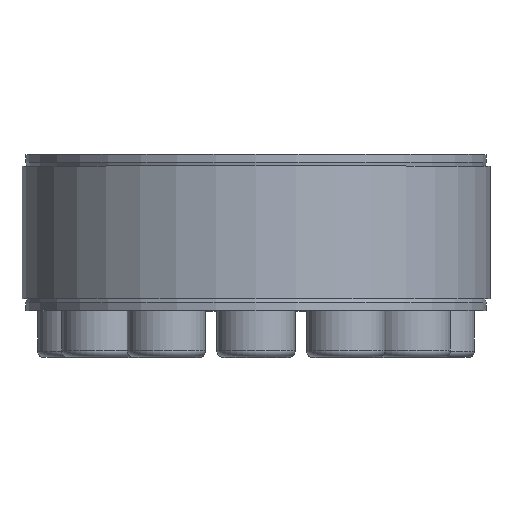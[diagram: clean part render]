
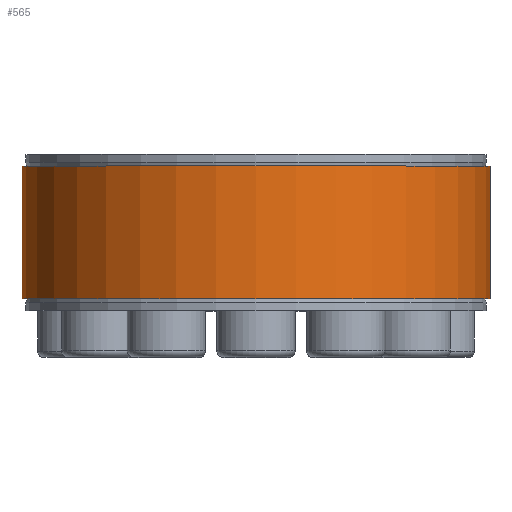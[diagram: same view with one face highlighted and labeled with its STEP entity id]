
A CAD part, top view. The second image highlights one B-rep face of the part: STEP entity #565.
In plain terms, the highlighted cylindrical face has radius 30 mm (diameter 60 mm), a partial arc.
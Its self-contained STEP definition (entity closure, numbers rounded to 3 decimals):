
#565 = ADVANCED_FACE( '', ( #1053 ), #1054, .T. );
#1053 = FACE_OUTER_BOUND( '', #1914, .T. );
#1054 = CYLINDRICAL_SURFACE( '', #1915, 30. );
#1914 = EDGE_LOOP( '', ( #2798, #2799, #2800, #2801 ) );
#1915 = AXIS2_PLACEMENT_3D( '', #2802, #2803, #2804 );
#2798 = ORIENTED_EDGE( '', *, *, #4828, .F. );
#2799 = ORIENTED_EDGE( '', *, *, #4829, .T. );
#2800 = ORIENTED_EDGE( '', *, *, #4830, .T. );
#2801 = ORIENTED_EDGE( '', *, *, #4831, .F. );
#2802 = CARTESIAN_POINT( '', ( 0., -60., 0. ) );
#2803 = DIRECTION( '', ( 0., -1., 0. ) );
#2804 = DIRECTION( '', ( 0., 0., 1. ) );
#4828 = EDGE_CURVE( '', #5360, #5361, #5362, .T. );
#4829 = EDGE_CURVE( '', #5360, #5363, #5364, .T. );
#4830 = EDGE_CURVE( '', #5363, #5365, #5366, .T. );
#4831 = EDGE_CURVE( '', #5361, #5365, #5367, .T. );
#5360 = VERTEX_POINT( '', #6146 );
#5361 = VERTEX_POINT( '', #6147 );
#5362 = CIRCLE( '', #6148, 30. );
#5363 = VERTEX_POINT( '', #6149 );
#5364 = LINE( '', #6150, #6151 );
#5365 = VERTEX_POINT( '', #6152 );
#5366 = CIRCLE( '', #6153, 30. );
#5367 = LINE( '', #6154, #6155 );
#6146 = CARTESIAN_POINT( '', ( 0.5, -8.5, -29.996 ) );
#6147 = CARTESIAN_POINT( '', ( -0.5, -8.5, -29.996 ) );
#6148 = AXIS2_PLACEMENT_3D( '', #7610, #7611, #7612 );
#6149 = CARTESIAN_POINT( '', ( 0.5, 8.5, -29.996 ) );
#6150 = CARTESIAN_POINT( '', ( 0.5, -60., -29.996 ) );
#6151 = VECTOR( '', #7613, 1000. );
#6152 = CARTESIAN_POINT( '', ( -0.5, 8.5, -29.996 ) );
#6153 = AXIS2_PLACEMENT_3D( '', #7614, #7615, #7616 );
#6154 = CARTESIAN_POINT( '', ( -0.5, -60., -29.996 ) );
#6155 = VECTOR( '', #7617, 1000. );
#7610 = CARTESIAN_POINT( '', ( 0., -8.5, 0. ) );
#7611 = DIRECTION( '', ( 0., -1., 0. ) );
#7612 = DIRECTION( '', ( 0., 0., -1. ) );
#7613 = DIRECTION( '', ( 0., 1., 0. ) );
#7614 = CARTESIAN_POINT( '', ( 0., 8.5, 0. ) );
#7615 = DIRECTION( '', ( 0., -1., 0. ) );
#7616 = DIRECTION( '', ( 0., 0., -1. ) );
#7617 = DIRECTION( '', ( 0., 1., 0. ) );
